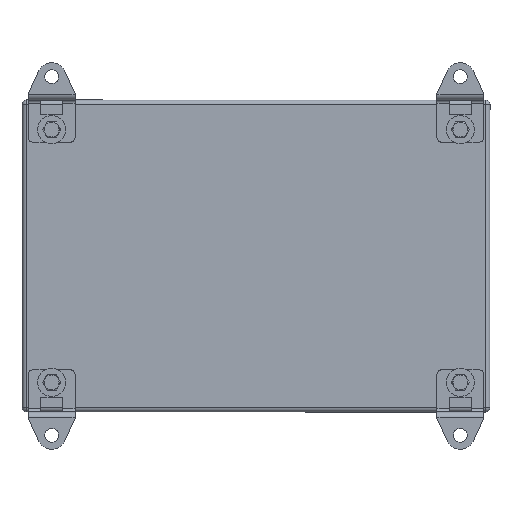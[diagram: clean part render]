
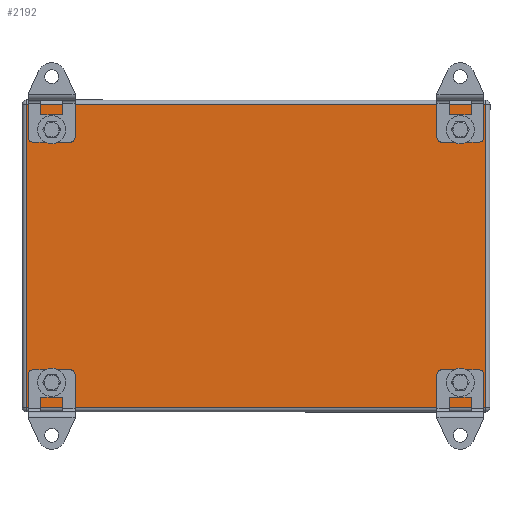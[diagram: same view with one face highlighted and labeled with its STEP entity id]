
A CAD part, left-side view. The second image highlights one B-rep face of the part: STEP entity #2192.
In plain terms, the highlighted planar face has unit normal (-1, 0, 0).
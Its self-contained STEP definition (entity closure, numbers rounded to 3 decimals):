
#2192=ADVANCED_FACE('',(#3158,#3160,#3162,#3164,#3166),#3168,.F.);
#3158=FACE_BOUND('',#3159,.T.);
#3159=EDGE_LOOP('',(#7437,#7438,#7439,#7440));
#3160=FACE_BOUND('',#3161,.T.);
#3161=EDGE_LOOP('',(#7441));
#3162=FACE_BOUND('',#3163,.T.);
#3163=EDGE_LOOP('',(#7442));
#3164=FACE_BOUND('',#3165,.T.);
#3165=EDGE_LOOP('',(#7443));
#3166=FACE_BOUND('',#3167,.T.);
#3167=EDGE_LOOP('',(#7444));
#3168=PLANE('',#3169);
#3169=AXIS2_PLACEMENT_3D('',#3170,#3171,#3172);
#3170=CARTESIAN_POINT('',(0.,0.,0.));
#3171=DIRECTION('',(1.,0.,0.));
#3172=DIRECTION('',(0.,1.,0.));
#7437=ORIENTED_EDGE('',*,*,#9196,.T.);
#7438=ORIENTED_EDGE('',*,*,#9197,.T.);
#7439=ORIENTED_EDGE('',*,*,#9198,.T.);
#7440=ORIENTED_EDGE('',*,*,#9199,.T.);
#7441=ORIENTED_EDGE('',*,*,#9127,.T.);
#7442=ORIENTED_EDGE('',*,*,#9128,.T.);
#7443=ORIENTED_EDGE('',*,*,#9129,.T.);
#7444=ORIENTED_EDGE('',*,*,#9130,.T.);
#9127=EDGE_CURVE('',#10106,#10106,#10107,.F.);
#9128=EDGE_CURVE('',#10108,#10108,#10109,.F.);
#9129=EDGE_CURVE('',#10110,#10110,#10111,.F.);
#9130=EDGE_CURVE('',#10112,#10112,#10113,.F.);
#9196=EDGE_CURVE('',#10220,#10221,#10222,.T.);
#9197=EDGE_CURVE('',#10221,#10223,#10224,.T.);
#9198=EDGE_CURVE('',#10223,#10225,#10226,.T.);
#9199=EDGE_CURVE('',#10225,#10220,#10227,.T.);
#10106=VERTEX_POINT('',#11770);
#10107=CIRCLE('',#11771,3.25);
#10108=VERTEX_POINT('',#11775);
#10109=CIRCLE('',#11776,3.25);
#10110=VERTEX_POINT('',#11780);
#10111=CIRCLE('',#11781,3.25);
#10112=VERTEX_POINT('',#11785);
#10113=CIRCLE('',#11786,3.25);
#10220=VERTEX_POINT('',#12031);
#10221=VERTEX_POINT('',#12032);
#10222=LINE('',#12033,#12034);
#10223=VERTEX_POINT('',#12036);
#10224=LINE('',#12037,#12038);
#10225=VERTEX_POINT('',#12040);
#10226=LINE('',#12041,#12042);
#10227=LINE('',#12044,#12045);
#11770=CARTESIAN_POINT('',(0.,127.75,81.));
#11771=AXIS2_PLACEMENT_3D('',#11772,#11773,#11774);
#11772=CARTESIAN_POINT('',(0.,131.,81.));
#11773=DIRECTION('',(-1.,0.,0.));
#11774=DIRECTION('',(0.,-1.,0.));
#11775=CARTESIAN_POINT('',(0.,-134.25,-81.));
#11776=AXIS2_PLACEMENT_3D('',#11777,#11778,#11779);
#11777=CARTESIAN_POINT('',(0.,-131.,-81.));
#11778=DIRECTION('',(-1.,0.,0.));
#11779=DIRECTION('',(0.,-1.,0.));
#11780=CARTESIAN_POINT('',(0.,127.75,-81.));
#11781=AXIS2_PLACEMENT_3D('',#11782,#11783,#11784);
#11782=CARTESIAN_POINT('',(0.,131.,-81.));
#11783=DIRECTION('',(-1.,0.,0.));
#11784=DIRECTION('',(0.,-1.,0.));
#11785=CARTESIAN_POINT('',(0.,-134.25,81.));
#11786=AXIS2_PLACEMENT_3D('',#11787,#11788,#11789);
#11787=CARTESIAN_POINT('',(0.,-131.,81.));
#11788=DIRECTION('',(-1.,0.,0.));
#11789=DIRECTION('',(0.,-1.,0.));
#12031=CARTESIAN_POINT('',(0.,147.2,97.2));
#12032=CARTESIAN_POINT('',(0.,147.2,-97.2));
#12033=CARTESIAN_POINT('',(0.,147.2,97.2));
#12034=VECTOR('',#12035,1.);
#12035=DIRECTION('',(0.,0.,-1.));
#12036=CARTESIAN_POINT('',(0.,-147.2,-97.2));
#12037=CARTESIAN_POINT('',(0.,147.2,-97.2));
#12038=VECTOR('',#12039,1.);
#12039=DIRECTION('',(0.,-1.,0.));
#12040=CARTESIAN_POINT('',(0.,-147.2,97.2));
#12041=CARTESIAN_POINT('',(0.,-147.2,-97.2));
#12042=VECTOR('',#12043,1.);
#12043=DIRECTION('',(0.,0.,1.));
#12044=CARTESIAN_POINT('',(0.,-147.2,97.2));
#12045=VECTOR('',#12046,1.);
#12046=DIRECTION('',(0.,1.,0.));
